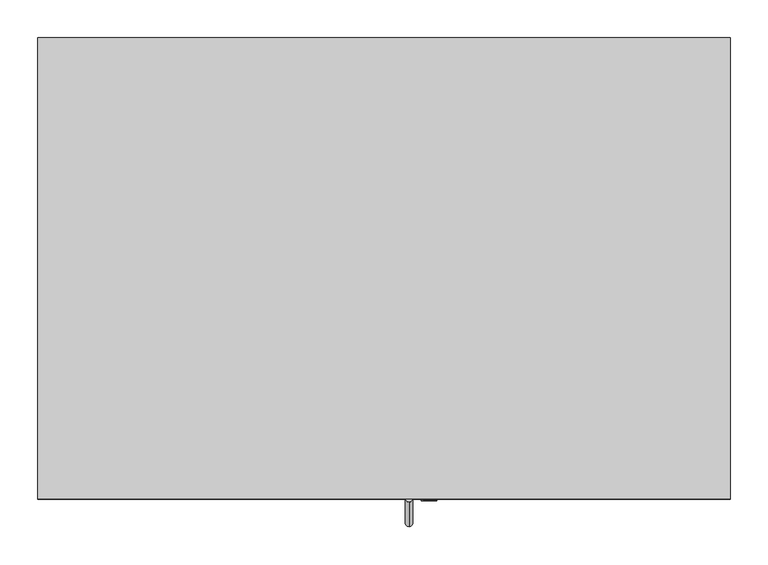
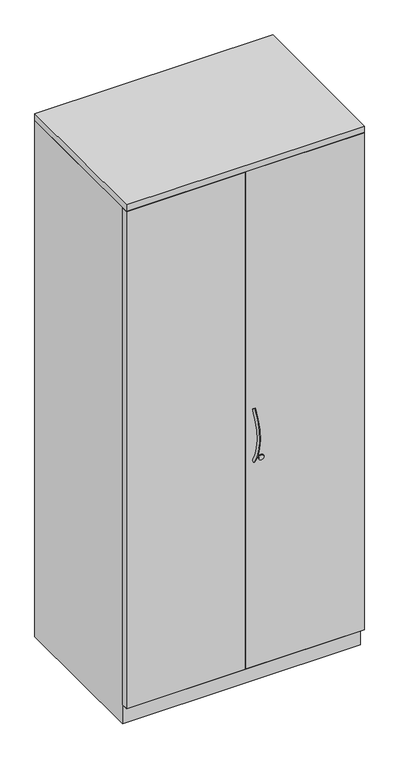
"""IFC4 building model written with IfcOpenShell, lengths in millimetres: furniture geometry, Steelcase - Universal Storage - Cabinet - Storage - 66H-84H - Proud Steel : 84H x 23 1/8D x 36W."""

from ifc_helpers import new_model, si_unit, point, frame, frame_2d, origin, place, context, project, spatial, polyline, circle_curve, ellipse_curve, trimmed, segment, composite_curve, outline, extrude, faceted_brep, source, transform, mapped, element, save
from ifc_brep_helpers import plane_surface, revolved_surface, advanced_brep


def furniture_ebc91148(model_context):
    return source(origin(), model_context, "Body", "SolidModel", [
        extrude(outline(polyline([(914.4, 0.0), (914.4, -609.6), (0.0, -609.6), (0.0, 0.0), (914.4, 0.0)])), frame((0.0, 0.0, 2095.5), z_axis=(0.0, 0.0, 1.0), x_axis=(1.0, 0.0, 0.0)), (0.0, 0.0, 1.0), 25.4),
        extrude(outline(polyline([(0.0, -609.6), (0.0, -584.2008418), (454.66, -584.2008418), (454.66, -609.6), (0.0, -609.6)])), frame((0.0, 0.0, 77.724), z_axis=(0.0, 0.0, 1.0), x_axis=(1.0, 0.0, 0.0)), (0.0, 0.0, 1.0), 2016.252),
        extrude(outline(polyline([(914.4, -584.2008418), (914.4, -609.6), (459.74, -609.6), (459.74, -584.2008418), (914.4, -584.2008418)])), frame((0.0, 0.0, 77.724), z_axis=(0.0, 0.0, 1.0), x_axis=(1.0, 0.0, 0.0)), (0.0, 0.0, 1.0), 2016.252),
        extrude(outline(composite_curve([segment(trimmed(circle_curve(frame_2d((917.702, 516.7418131)), 10.16), [point((917.702, 526.9018131))], [point((917.702, 506.5818131))], False, "CARTESIAN"), True, "CONTINUOUS"), segment(trimmed(circle_curve(frame_2d((917.702, 516.7418131)), 10.16), [point((917.702, 506.5818131))], [point((917.702, 526.9018131))], False, "CARTESIAN"), True, "CONTINUOUS")], self_intersect=False)), frame((0.0, -612.013031, 0.0), z_axis=(0.0, 1.0, 0.0), x_axis=(0.0, 0.0, 1.0)), (0.0, 0.0, 1.0), 2.413031),
        advanced_brep(
        [(490.2783765, -605.0224318, 1119.7196018), (490.2783765, -613.6221633, 1125.3900503), (490.2783765, -602.5951581, 911.9931915), (490.2783765, -611.0600418, 906.1233437)],
        [
            (0, 1, circle_curve(frame((490.2783765, -609.3222976, 1122.5548261), z_axis=(0.0, 0.5504787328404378, 0.83484918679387), x_axis=(0.0, -0.83484918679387, 0.5504787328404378)), 5.1504701)),
            (1, 0, circle_curve(frame((490.2783765, -609.3222976, 1122.5548261), z_axis=(0.0, 0.5504787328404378, 0.83484918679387), x_axis=(0.0, -0.83484918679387, 0.5504787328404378)), 5.1504701)),
            (2, 3, circle_curve(frame((490.2783765, -606.8276, 909.0582676), z_axis=(0.0, 0.5698361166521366, -0.8217583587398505), x_axis=(0.0, -0.8217583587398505, -0.5698361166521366)), 5.1504701)),
            (3, 2, circle_curve(frame((490.2783765, -606.8276, 909.0582676), z_axis=(0.0, 0.5698361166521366, -0.8217583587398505), x_axis=(0.0, -0.8217583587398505, -0.5698361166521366)), 5.1504701)),
            (3, 1, circle_curve(frame((490.2783765, -450.226461, 1017.6509992), z_axis=(-1.0, 0.0, 0.0), x_axis=(0.0, -0.83484918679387, 0.5504787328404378)), 195.7188256)),
            (0, 2, circle_curve(frame((490.2783765, -450.226461, 1017.6509992), z_axis=(1.0, 0.0, 0.0), x_axis=(0.0, -0.83484918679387, 0.5504787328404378)), 185.4178854)),
        ],
        [
            plane_surface(frame((490.2783765, -609.3222976, 1122.5548261), z_axis=(0.0, 0.5504787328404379, 0.83484918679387), x_axis=(-1.0, 0.0, 0.0))),
            plane_surface(frame((490.2783765, -606.8276, 909.0582676), z_axis=(0.0, 0.5698361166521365, -0.8217583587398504), x_axis=(-1.0, 0.0, 0.0))),
            revolved_surface(trimmed(ellipse_curve(frame((490.2783765, -609.3222976, 1122.5548261), z_axis=(0.0, 0.5504787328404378, 0.83484918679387), x_axis=(0.0, -0.83484918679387, 0.5504787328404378)), 5.1504701, 5.1504701), [point((490.2783765, -605.0224318, 1119.7196018))], [point((490.2783765, -613.6221633, 1125.3900503))], True, "CARTESIAN"), (490.2783765, -450.226461, 1017.6509992), (1.0, 0.0, 0.0)),
            revolved_surface(trimmed(ellipse_curve(frame((490.2783765, -609.3222976, 1122.5548261), z_axis=(0.0, 0.5504787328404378, 0.83484918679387), x_axis=(0.0, -0.83484918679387, 0.5504787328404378)), 5.1504701, 5.1504701), [point((490.2783765, -613.6221633, 1125.3900503))], [point((490.2783765, -605.0224318, 1119.7196018))], True, "CARTESIAN"), (490.2783765, -450.226461, 1017.6509992), (1.0, 0.0, 0.0)),
        ],
        [
            (0, [[1, 2]]),
            (1, [[3, 4]]),
            (2, [[5, -1, 6, -4]]),
            (3, [[-6, -2, -5, -3]]),
        ],
    ),
        extrude(outline(composite_curve([segment(trimmed(circle_curve(frame_2d((919.3669832, 517.0109835)), 9.7167829), [point((919.3669832, 526.7277664))], [point((919.3669832, 507.2942006))], False, "CARTESIAN"), True, "CONTINUOUS"), segment(trimmed(circle_curve(frame_2d((919.3669832, 517.0109835)), 9.7167829), [point((919.3669832, 507.2942006))], [point((919.3669832, 526.7277664))], False, "CARTESIAN"), True, "CONTINUOUS")], self_intersect=False)), frame((0.0, -610.2695275, 0.0), z_axis=(0.0, 1.0, 0.0), x_axis=(0.0, 0.0, 1.0)), (0.0, 0.0, 1.0), 0.6695275),
        faceted_brep([(914.4, 0.0, 0.0), (914.4, -582.6768432, 0.0), (0.0, -582.6768432, 0.0), (0.0, 0.0, 0.0), (0.0, 0.0, 2093.976), (914.4, 0.0, 2093.976), (0.0, -582.6768432, 76.2), (0.0, -609.6, 76.2), (0.0, -609.6, 77.724), (0.0, -582.6768432, 77.724), (0.0, -582.6768432, 2093.976), (914.4, -582.6768432, 76.2), (914.4, -582.6768432, 2093.976), (914.4, -582.6768432, 77.724), (914.4, -609.4738418, 77.724), (914.4, -609.6, 76.2), (889.0000242, -25.4000008, 2093.976), (889.0000242, -582.6768432, 2093.976), (25.3999758, -582.6768432, 2093.976), (25.3999758, -25.4000008, 2093.976), (889.0000242, -25.4000008, 77.724), (889.0000242, -582.6768432, 77.724), (25.3999758, -582.6768432, 77.724), (25.3999758, -25.4000008, 77.724), (4.6981334, -584.2008418, 77.724), (889.0000242, -584.2008418, 77.724)], [[[0, 1, 2, 3]], [[0, 3, 4, 5]], [[4, 3, 2, 6, 7, 8, 9, 10]], [[2, 1, 11, 6]], [[1, 0, 5, 12, 13, 14, 15, 11]], [[16, 17, 12, 5, 4, 10, 18, 19]], [[17, 16, 20, 21]], [[12, 17, 21, 13]], [[18, 10, 9, 22]], [[19, 18, 22, 23]], [[16, 19, 23, 20]], [[8, 24, 25, 14, 13, 21, 20, 23, 22, 9]], [[15, 7, 6, 11]], [[24, 8, 7]], [[25, 24, 7, 15]], [[14, 25, 15]]]),
    ])


if __name__ == "__main__":
    model = new_model("IFC4")
    model_context = context("Model", 3, world=origin())
    ifc_project = project(units=[si_unit("LENGTHUNIT", "METRE", prefix="MILLI")], contexts=[model_context])
    site = spatial("IfcSite", under=ifc_project)
    building = spatial("IfcBuilding", under=site)
    placement = place(None, origin())
    furniture_shape = furniture_ebc91148(model_context)
    element("IfcFurniture", 1, ObjectType="Steelcase - Universal Storage - Cabinet - Storage - 66H-84H - Proud Steel : 84H x 23 1/8D x 36W", at=placement, inside=building, context=model_context, shape_type="MappedRepresentation", body=[
        mapped(furniture_shape, transform((0.0, 0.0, 0.0), x_axis=(1.0, 0.0, 0.0), y_axis=(0.0, 1.0, 0.0), z_axis=(0.0, 0.0, 1.0))),
    ])
    save(model, "model.ifc")
